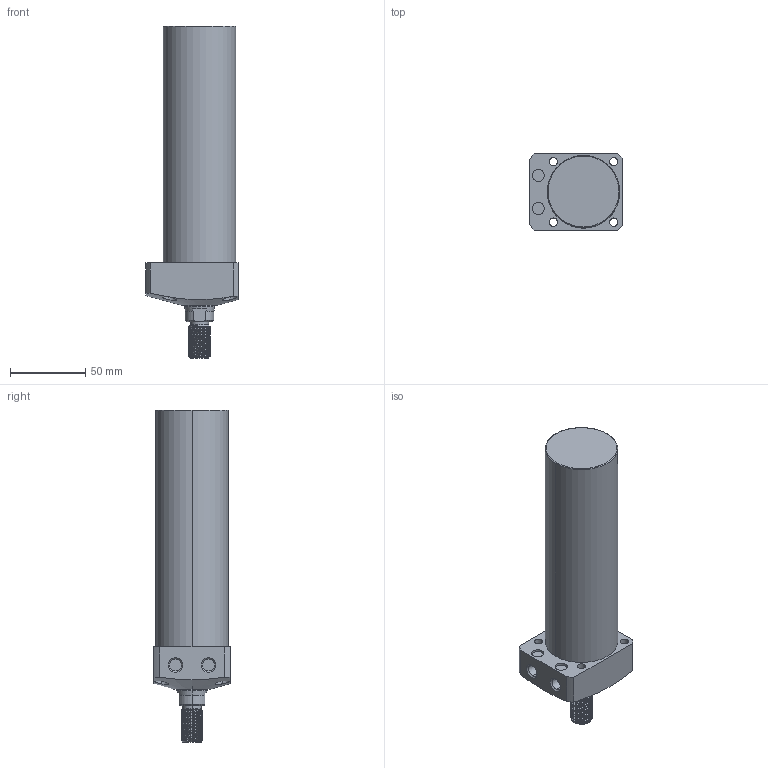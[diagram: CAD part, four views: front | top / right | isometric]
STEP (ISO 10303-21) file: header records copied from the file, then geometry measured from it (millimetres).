
FILE_DESCRIPTION (( 'STEP AP203' ), '1' );
FILE_NAME ('CLL-048CT-130.STEP', '2020-01-08T10:15:53', ( '' ), ( '' ), 'SwSTEP 2.0', 'SolidWorks 2015', '' );
FILE_SCHEMA (( 'CONFIG_CONTROL_DESIGN' ));
Length unit declared in the file: millimetre
Products named in the file (1): CLL-048CT-130
Bounding box: 61 x 51 x 220 mm (x, y, z)
Volume: 363099.6 mm3; surface area: 39727.6 mm2
Topology: 1 solids, 1 shells, 122 faces, 310 edges, 201 vertices
Faces by surface type: cylinder 77, plane 24, cone 17, torus 2, bspline 2
Entity records: 6488 total; most frequent: CARTESIAN_POINT 3687, ORIENTED_EDGE 620, DIRECTION 522, EDGE_CURVE 310, AXIS2_PLACEMENT_3D 206, VERTEX_POINT 201, EDGE_LOOP 141, FACE_OUTER_BOUND 122
